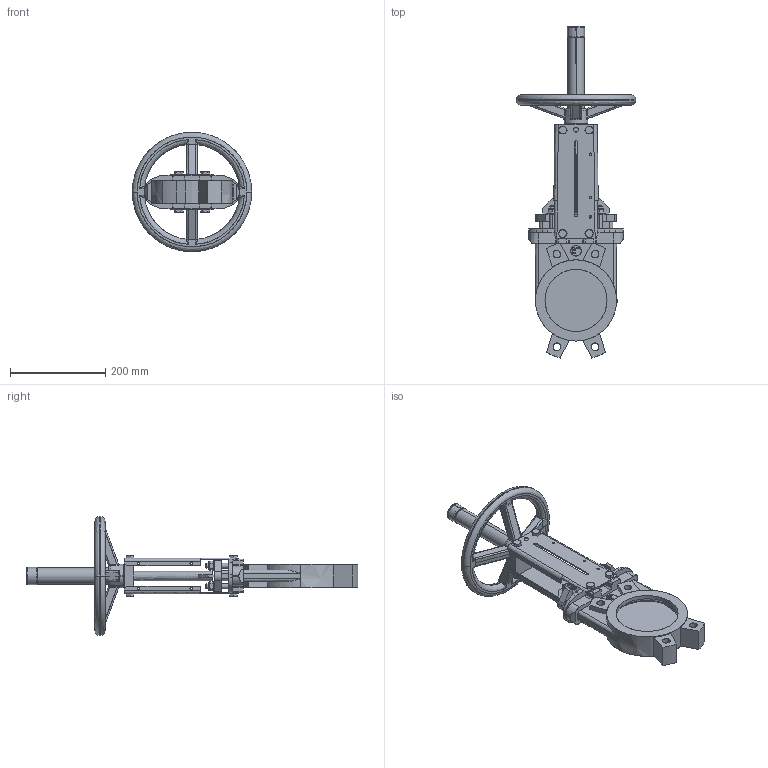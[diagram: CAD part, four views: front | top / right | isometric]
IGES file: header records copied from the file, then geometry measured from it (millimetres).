
Start section: SolidWorks IGES file using analytic representation for surfaces
Global section: file name: D:\part\3D Projects\VG-HANDWHEEL(DN50-600)\VG DN125\VG DN125.IGS; native system: SolidWorks 2009; preprocessor: SolidWorks 2009; author: zhixin.zheng; date: 100127.154508; units: millimetre
Bounding box: 250 x 695.53 x 250 mm (x, y, z)
Surface area: 469442.7 mm2 (no closed solid volume)
Topology: 0 solids, 0 shells, 833 faces, 8782 edges, 8782 vertices
Faces by surface type: bspline 516, revolution 317
